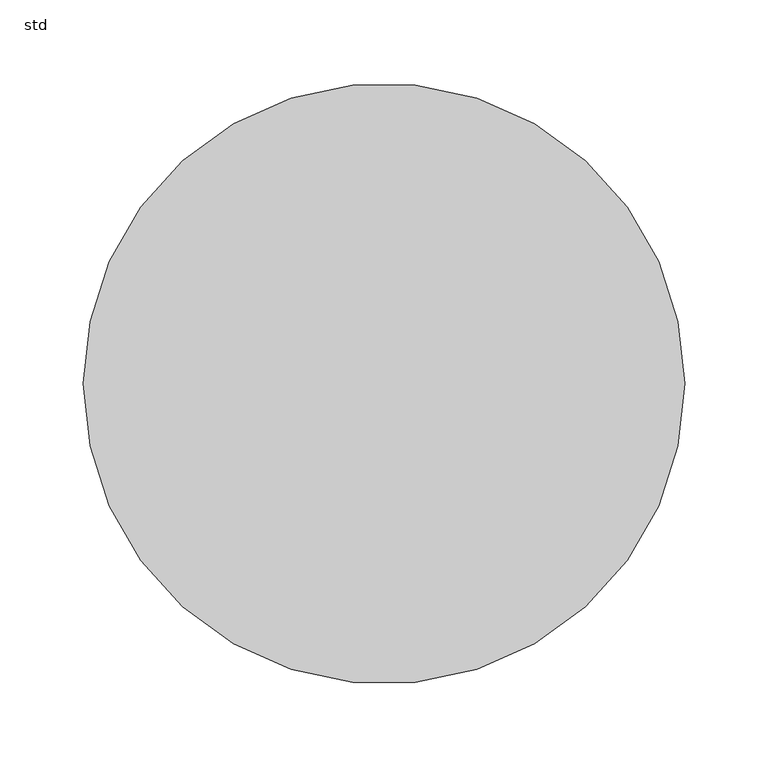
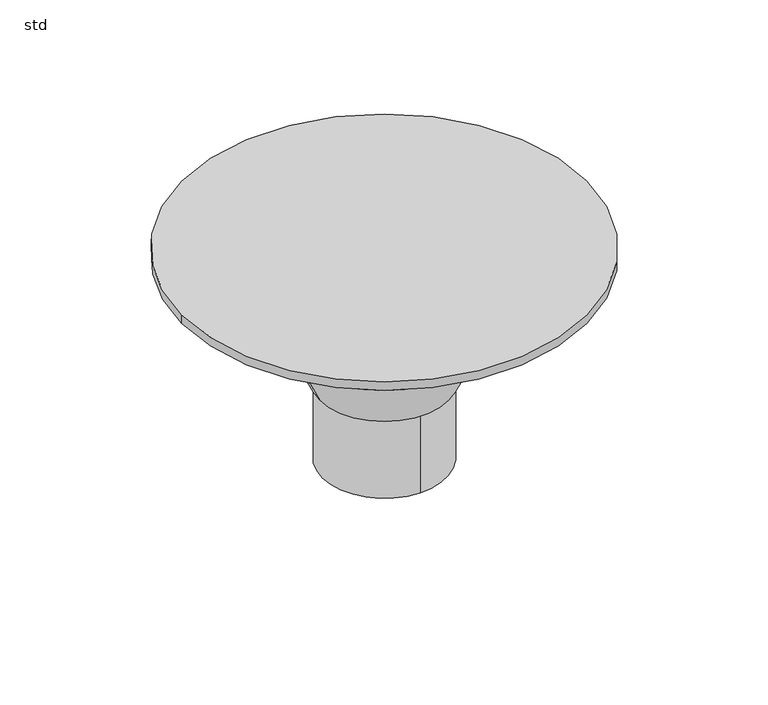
"""IFC4 building model written with IfcOpenShell, lengths in millimetres: sanitary terminal geometry, ZZZ_do_not_use_PF_CI_UN_gully body_ACO : std."""

from ifc_helpers import new_model, si_unit, frame, origin, origin_with_axes, place, context, project, spatial, polyline, circle_curve, source, transform, mapped, element, save
from ifc_brep_helpers import plane_surface, cylinder_surface, revolved_surface, advanced_brep


def std_d3140f96(model_context):
    return source(origin(), model_context, "Body", "AdvancedBrep", [
        advanced_brep(
        [(57.4487707, 0.0, -123.0), (-57.4487707, 0.0, -123.0), (-77.5, 0.0, -80.0), (77.5, 0.0, -80.0), (55.0, 0.0, -123.0), (0.0, 55.0, -123.0), (-55.0, 0.0, -123.0), (0.0, -55.0, -123.0), (-77.5, 0.0, -8.0), (77.5, 0.0, -8.0), (0.0, -55.0, -197.0), (0.0, 55.0, -197.0), (-180.0, 0.0, -8.0), (180.0, 0.0, -8.0), (-180.0, 0.0, 0.0), (180.0, 0.0, 0.0)],
        [
            (0, 1, circle_curve(frame((0.0, 0.0, -123.0), z_axis=(0.0, 0.0, 1.0), x_axis=(-1.0, 0.0, 0.0)), 57.4487707)),
            (1, 2),
            (2, 3, circle_curve(frame((0.0, 0.0, -80.0), z_axis=(0.0, 0.0, -1.0), x_axis=(-1.0, 0.0, 0.0)), 77.5)),
            (3, 0),
            (1, 0, circle_curve(frame((0.0, 0.0, -123.0), z_axis=(0.0, 0.0, 1.0), x_axis=(-1.0, 0.0, 0.0)), 57.4487707)),
            (3, 2, circle_curve(frame((0.0, 0.0, -80.0), z_axis=(0.0, 0.0, -1.0), x_axis=(-1.0, 0.0, 0.0)), 77.5)),
            (0, 4),
            (4, 5, circle_curve(frame((0.0, 0.0, -123.0), z_axis=(0.0, 0.0, 1.0), x_axis=(0.0, 1.0, 0.0)), 55.0)),
            (5, 6, circle_curve(frame((0.0, 0.0, -123.0), z_axis=(0.0, 0.0, 1.0), x_axis=(0.0, 1.0, 0.0)), 55.0)),
            (6, 1),
            (6, 7, circle_curve(frame((0.0, 0.0, -123.0), z_axis=(0.0, 0.0, 1.0), x_axis=(0.0, 1.0, 0.0)), 55.0)),
            (7, 4, circle_curve(frame((0.0, 0.0, -123.0), z_axis=(0.0, 0.0, 1.0), x_axis=(0.0, 1.0, 0.0)), 55.0)),
            (8, 2),
            (3, 9),
            (9, 8, circle_curve(frame((0.0, 0.0, -8.0), z_axis=(0.0, 0.0, -1.0), x_axis=(1.0, 0.0, 0.0)), 77.5)),
            (8, 9, circle_curve(frame((0.0, 0.0, -8.0), z_axis=(0.0, 0.0, -1.0), x_axis=(1.0, 0.0, 0.0)), 77.5)),
            (10, 11, circle_curve(frame((0.0, 0.0, -197.0), z_axis=(0.0, 0.0, -1.0), x_axis=(0.0, 1.0, 0.0)), 55.0)),
            (11, 10, circle_curve(frame((0.0, 0.0, -197.0), z_axis=(0.0, 0.0, -1.0), x_axis=(0.0, 1.0, 0.0)), 55.0)),
            (10, 7),
            (5, 11),
            (12, 13, circle_curve(frame((0.0, 0.0, -8.0), z_axis=(0.0, 0.0, -1.0), x_axis=(1.0, 0.0, 0.0)), 180.0)),
            (13, 12, circle_curve(frame((0.0, 0.0, -8.0), z_axis=(0.0, 0.0, -1.0), x_axis=(1.0, 0.0, 0.0)), 180.0)),
            (14, 15, circle_curve(origin_with_axes(), 180.0)),
            (15, 14, circle_curve(origin_with_axes(), 180.0)),
            (13, 15),
            (14, 12),
        ],
        [
            revolved_surface(polyline([(-77.5, 0.0, -80.0), (-57.4487707, 0.0, -123.0)]), (0.0, 0.0, -77.7894115), (0.0, 0.0, -1.0)),
            plane_surface(frame((0.0, 0.0, -123.0), z_axis=(0.0, 0.0, -1.0), x_axis=(-1.0, 0.0, 0.0))),
            cylinder_surface(frame((0.0, 0.0, -80.0), z_axis=(0.0, 0.0, 1.0), x_axis=(1.0, 0.0, 0.0)), 77.5),
            plane_surface(frame((0.0, 55.0, -197.0), z_axis=(0.0, 0.0, -1.0), x_axis=(1.0, 0.0, 0.0))),
            cylinder_surface(frame((0.0, 0.0, -106.0), z_axis=(0.0, 0.0, -1.0), x_axis=(0.0, 1.0, 0.0)), 55.0),
            plane_surface(frame((180.0, 0.0, -8.0), z_axis=(0.0, 0.0, -1.0), x_axis=(0.0, -1.0, 0.0))),
            plane_surface(frame((180.0, 0.0, 0.0), z_axis=(0.0, 0.0, 1.0), x_axis=(0.0, 1.0, 0.0))),
            cylinder_surface(frame((0.0, 0.0, -8.0), z_axis=(0.0, 0.0, 1.0), x_axis=(1.0, 0.0, 0.0)), 180.0),
        ],
        [
            (0, [[1, 2, 3, 4]]),
            (0, [[-2, 5, -4, 6]]),
            (1, [[-1, 7, 8, 9, 10]]),
            (1, [[-5, -10, 11, 12, -7]]),
            (2, [[13, -6, 14, 15]]),
            (2, [[-13, 16, -14, -3]]),
            (3, [[17, 18]]),
            (4, [[-17, 19, -11, -9, 20]]),
            (4, [[-18, -20, -8, -12, -19]]),
            (5, [[21, 22], [-15, -16]]),
            (6, [[23, 24]]),
            (7, [[-22, 25, -23, 26]]),
            (7, [[-21, -26, -24, -25]]),
        ],
    ),
    ])


if __name__ == "__main__":
    model = new_model("IFC4")
    model_context = context("Model", 3, world=origin())
    ifc_project = project(units=[si_unit("LENGTHUNIT", "METRE", prefix="MILLI")], contexts=[model_context])
    site = spatial("IfcSite", under=ifc_project)
    building = spatial("IfcBuilding", under=site)
    placement = place(None, origin())
    std_shape = std_d3140f96(model_context)
    element("IfcSanitaryTerminal", 1, ObjectType="ZZZ_do_not_use_PF_CI_UN_gully body_ACO : std", at=placement, inside=building, context=model_context, shape_type="MappedRepresentation", body=[
        mapped(std_shape, transform((0.0, 0.0, 0.0), x_axis=(1.0, 0.0, 0.0), y_axis=(0.0, 1.0, 0.0), z_axis=(0.0, 0.0, 1.0))),
    ])
    save(model, "model.ifc")
